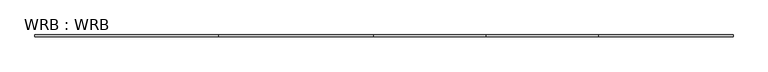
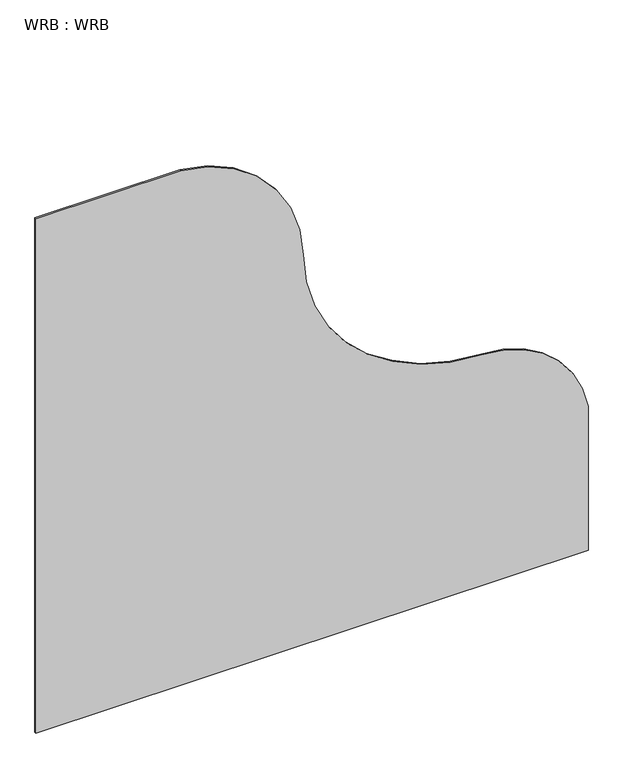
"""IFC4 building model written with IfcOpenShell, lengths in millimetres: proxy geometry, WRB : WRB."""

from ifc_helpers import new_model, si_unit, point, frame, frame_2d, origin, place, context, project, spatial, polyline, circle_curve, trimmed, segment, composite_curve, outline, extrude, source, transform, mapped, element, save


def wrb_wrb_ac3679c3(model_context):
    return source(origin(), model_context, "Body", "SweptSolid", [
        extrude(outline(composite_curve([segment(polyline([(-19.05, 884.847143), (-19.05, 2142.147143), (326.9760682, 2142.147143)]), True, "CONTINUOUS"), segment(trimmed(circle_curve(frame_2d((286.9857554, 1896.8368291)), 248.5485369), [point((326.9760682, 2142.147143))], [point((535.510358, 1900.2860471))], False, "CARTESIAN"), True, "CONTINUOUS"), segment(trimmed(circle_curve(frame_2d((948.5891228, 1906.019076)), 413.1185466), [point((535.510358, 1900.2860471))], [point((591.8706469, 1697.647143))], True, "CARTESIAN"), True, "CONTINUOUS"), segment(trimmed(circle_curve(frame_2d((925.1337293, 1868.4093528)), 374.4649709), [point((591.8706469, 1697.647143))], [point((918.4023164, 1494.004889))], True, "CARTESIAN"), True, "CONTINUOUS"), segment(trimmed(circle_curve(frame_2d((912.871688, 1186.38864)), 307.6659626), [point((918.4023164, 1494.004889))], [point((1219.2, 1215.047143))], False, "CARTESIAN"), True, "CONTINUOUS"), segment(polyline([(1219.2, 1215.047143), (1219.2, 884.847143), (-19.05, 884.847143)]), True, "CONTINUOUS")], self_intersect=False)), frame((0.0, 3046.7015644, 0.0), z_axis=(0.0, 1.0, 0.0), x_axis=(0.0, 0.0, 1.0)), (0.0, 0.0, 1.0), 3.175),
    ])


if __name__ == "__main__":
    model = new_model("IFC4")
    model_context = context("Model", 3, world=origin())
    ifc_project = project(units=[si_unit("LENGTHUNIT", "METRE", prefix="MILLI")], contexts=[model_context])
    site = spatial("IfcSite", under=ifc_project)
    building = spatial("IfcBuilding", under=site)
    placement = place(None, origin())
    wrb_wrb_shape = wrb_wrb_ac3679c3(model_context)
    element("IfcBuildingElementProxy", 1, Name="WRB : WRB", ObjectType="WRB : WRB", at=placement, inside=building, context=model_context, shape_type="MappedRepresentation", body=[
        mapped(wrb_wrb_shape, transform((0.0, 0.0, 0.0), x_axis=(1.0, 0.0, 0.0), y_axis=(0.0, 1.0, 0.0), z_axis=(0.0, 0.0, 1.0))),
    ])
    save(model, "model.ifc")
